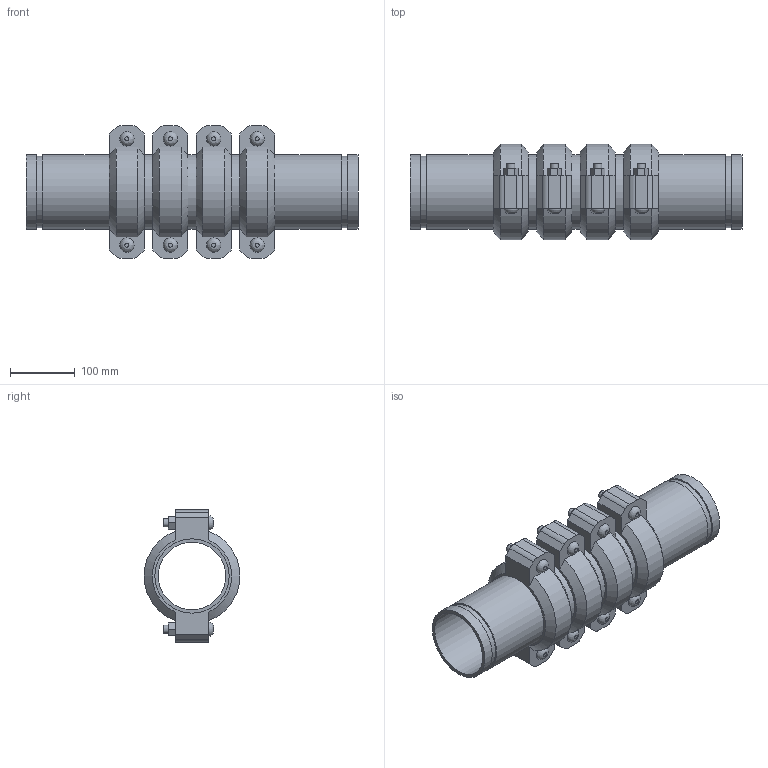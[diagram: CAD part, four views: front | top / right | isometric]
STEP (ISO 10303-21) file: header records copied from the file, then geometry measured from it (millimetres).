
FILE_DESCRIPTION(/* description */ ('VIC SS EXPANSION JOINT 4 COUPLINGS EXPANDED STYLE 155P (OGS) (POTABLE WATER) ','CAx-IF Rec.Pracs.---Representation and Presentation of Product Manufacturing Information (PMI)---4.0---2014-10-13'),/* implementation_level */ '2;1');
FILE_NAME(/* name */ 'C:\Users\kkamble\AppData\Roaming\Autodesk\ApplicationPlugins\Victaulic.Temp\A557\Victaulic_SS_Expansion Joint_Expanded_4 Couplings_Style 155P (OGS)-Potable Water_4 Coup_Expd_4 (100).stp',/* time_stamp */ '2021-07-16T16:51:29+05:00',/* author */ ('kkamble'),/* organization */ ('Victaulic'),/* preprocessor_version */ 'ST-DEVELOPER v17.2',/* originating_system */ 'Autodesk Inventor 2019',/* authorisation */ '');
FILE_SCHEMA (('AP242_MANAGED_MODEL_BASED_3D_ENGINEERING_MIM_LF { 1 0 10303 442 1 1 4 }'));
Length unit declared in the file: inch
Products named in the file (4): 155P-04.0; Nipple-04.0; Nipple-04.0_1; 075-04.0
Assembly tree (9 placements, depth 2):
  155P-04.0
    Nipple-04.0  x2
    Nipple-04.0_1  x3
    075-04.0  x4
Bounding box: 510.79 x 147.32 x 203.96 mm (x, y, z)
Volume: 2742446.9 mm3; surface area: 684406.7 mm2
Topology: 9 solids, 17 shells, 288 faces, 682 edges, 480 vertices
Faces by surface type: plane 174, cylinder 90, cone 16, bspline 8
Full cylindrical faces by diameter (mm): 12.7 x16, 14.605 x8, 103.988 x5, 107.95 x4, 110.084 x10, 114.3 x23
Entity records: 2776 total; most frequent: CARTESIAN_POINT 493, DIRECTION 461, ORIENTED_EDGE 386, EDGE_CURVE 193, AXIS2_PLACEMENT_3D 184, VERTEX_POINT 138, EDGE_LOOP 107, LINE 93
